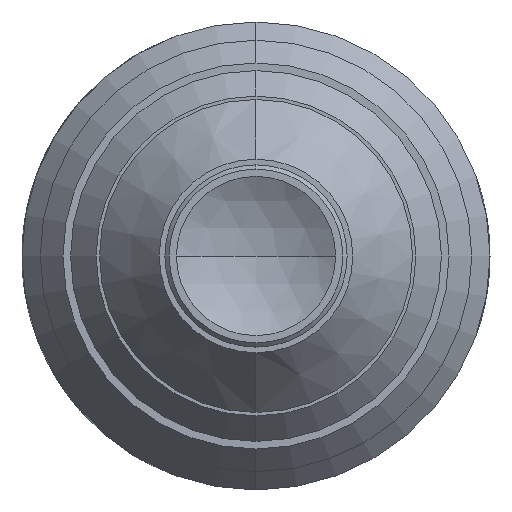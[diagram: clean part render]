
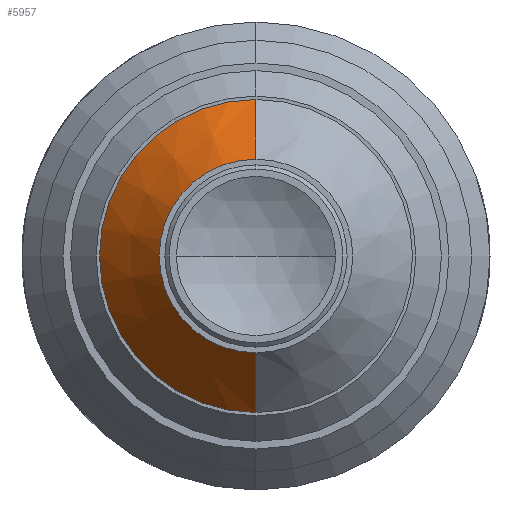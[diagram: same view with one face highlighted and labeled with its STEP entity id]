
A CAD part, left-side view. The second image highlights one B-rep face of the part: STEP entity #5957.
In plain terms, the highlighted conical face has half-angle 40 degrees and reference radius 12.872 mm.
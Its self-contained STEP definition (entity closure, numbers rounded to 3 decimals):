
#1429 = CARTESIAN_POINT ( 'NONE',  ( 16.759, 0., 0. ) ) ;
#2785 = VERTEX_POINT ( 'NONE', #50989 ) ;
#3445 = ORIENTED_EDGE ( 'NONE', *, *, #73909, .F. ) ;
#4429 = CIRCLE ( 'NONE', #48654, 7.959 ) ;
#5295 = EDGE_CURVE ( 'NONE', #63971, #65852, #36712, .T. ) ;
#5957 = ADVANCED_FACE ( 'NONE', ( #59400 ), #23013, .T. ) ;
#16379 = LINE ( 'NONE', #16781, #16718 ) ;
#16718 = VECTOR ( 'NONE', #59081, 1000. ) ;
#16781 = CARTESIAN_POINT ( 'NONE',  ( 16.759, 0., -12.872 ) ) ;
#23013 = CONICAL_SURFACE ( 'NONE', #55726, 12.872, 0.698 ) ;
#27704 = VECTOR ( 'NONE', #32141, 1000. ) ;
#27803 = LINE ( 'NONE', #51847, #27704 ) ;
#29100 = CARTESIAN_POINT ( 'NONE',  ( 16.759, 0., 12.872 ) ) ;
#30057 = ORIENTED_EDGE ( 'NONE', *, *, #5295, .T. ) ;
#31545 = DIRECTION ( 'NONE',  ( 0., 0., 1. ) ) ;
#32141 = DIRECTION ( 'NONE',  ( 0.766, 0., 0.643 ) ) ;
#32521 = ORIENTED_EDGE ( 'NONE', *, *, #38551, .F. ) ;
#32592 = CARTESIAN_POINT ( 'NONE',  ( 16.759, 0., -12.872 ) ) ;
#34923 = DIRECTION ( 'NONE',  ( 1., 0., 0. ) ) ;
#35311 = CARTESIAN_POINT ( 'NONE',  ( 16.759, 0., 0. ) ) ;
#36712 = CIRCLE ( 'NONE', #53009, 12.872 ) ;
#38033 = CARTESIAN_POINT ( 'NONE',  ( 10.904, 0., 0. ) ) ;
#38551 = EDGE_CURVE ( 'NONE', #2785, #53871, #4429, .T. ) ;
#41752 = CARTESIAN_POINT ( 'NONE',  ( 10.904, 0., -7.959 ) ) ;
#41840 = EDGE_LOOP ( 'NONE', ( #32521, #74621, #30057, #3445 ) ) ;
#43950 = DIRECTION ( 'NONE',  ( -1., 0., 0. ) ) ;
#46677 = DIRECTION ( 'NONE',  ( 0., 0., -1. ) ) ;
#48654 = AXIS2_PLACEMENT_3D ( 'NONE', #38033, #43950, #68057 ) ;
#50989 = CARTESIAN_POINT ( 'NONE',  ( 10.904, 0., 7.959 ) ) ;
#51847 = CARTESIAN_POINT ( 'NONE',  ( 16.759, 0., 12.872 ) ) ;
#53009 = AXIS2_PLACEMENT_3D ( 'NONE', #1429, #73060, #31545 ) ;
#53871 = VERTEX_POINT ( 'NONE', #41752 ) ;
#55726 = AXIS2_PLACEMENT_3D ( 'NONE', #35311, #34923, #46677 ) ;
#59081 = DIRECTION ( 'NONE',  ( 0.766, 0., -0.643 ) ) ;
#59400 = FACE_OUTER_BOUND ( 'NONE', #41840, .T. ) ;
#60742 = EDGE_CURVE ( 'NONE', #2785, #63971, #27803, .T. ) ;
#63971 = VERTEX_POINT ( 'NONE', #29100 ) ;
#65852 = VERTEX_POINT ( 'NONE', #32592 ) ;
#68057 = DIRECTION ( 'NONE',  ( 0., 0., 1. ) ) ;
#73060 = DIRECTION ( 'NONE',  ( -1., 0., 0. ) ) ;
#73909 = EDGE_CURVE ( 'NONE', #53871, #65852, #16379, .T. ) ;
#74621 = ORIENTED_EDGE ( 'NONE', *, *, #60742, .T. ) ;
